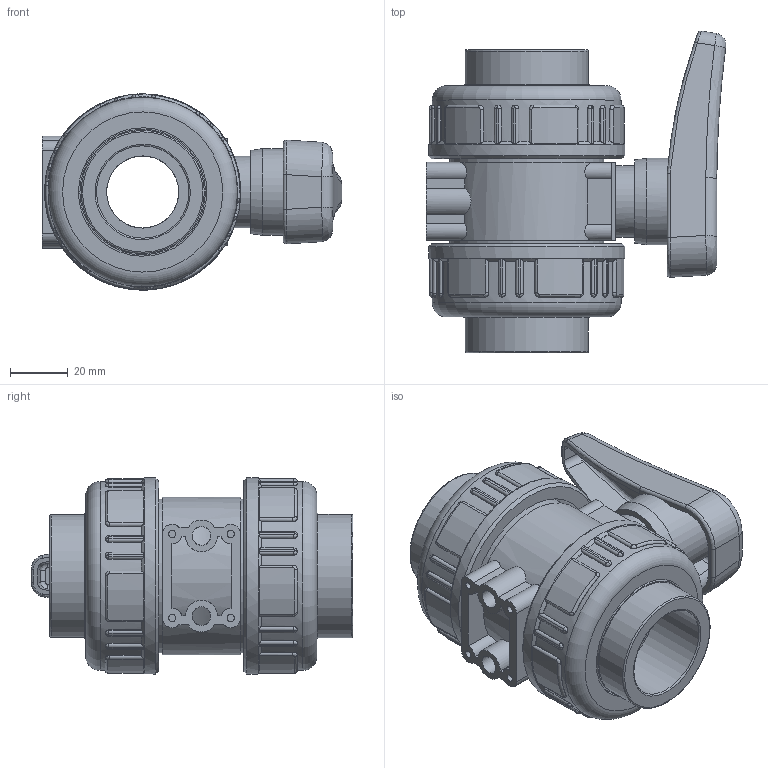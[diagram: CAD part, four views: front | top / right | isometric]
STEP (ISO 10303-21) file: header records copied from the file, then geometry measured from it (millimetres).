
FILE_DESCRIPTION(/* description */ (''),/* implementation_level */ '2;1');
FILE_NAME(/* name */ 'C:\Users\POLYPIPE\Desktop\DATASET INVENTOR\LIBRERIA EFFAST\3D_VALVOLE\3D_VALVOLE A SFERA\3D_BK1\3D_BDRBK1D\3D_BDRBK1D0320.stp',/* time_stamp */ '2018-01-23T15:28:20+01:00',/* author */ ('POLYPIPE'),/* organization */ (''),/* preprocessor_version */ 'ST-DEVELOPER v16.1',/* originating_system */ 'Autodesk Inventor 2016',/* authorisation */ '');
FILE_SCHEMA (('CONFIG_CONTROL_DESIGN'));
Length unit declared in the file: centimetre
Products named in the file (1): 3D_BDRBK1D0320
Bounding box: 103.87 x 111.46 x 68 mm (x, y, z)
Volume: 234894.4 mm3; surface area: 76284.8 mm2
Topology: 3 solids, 3 shells, 587 faces, 1495 edges, 945 vertices
Faces by surface type: plane 204, cylinder 196, bspline 162, torus 20, cone 5
Full cylindrical faces by diameter (mm): 2.5 x8, 4 x4, 6.5 x2, 15.8 x1, 24.7 x1, 25 x3, 30 x1, 32 x2, 40.2 x2, 42.7 x2, 43.5 x2, 44.5 x2, 51 x2, 53.3 x2, 54.7 x1, 56.7 x2, 65.5 x2, 68 x2
Entity records: 62650 total; most frequent: CARTESIAN_POINT 48884, ORIENTED_EDGE 2848, DIRECTION 2458, EDGE_CURVE 1424, AXIS2_PLACEMENT_3D 946, VERTEX_POINT 929, EDGE_LOOP 681, STYLED_ITEM 590
